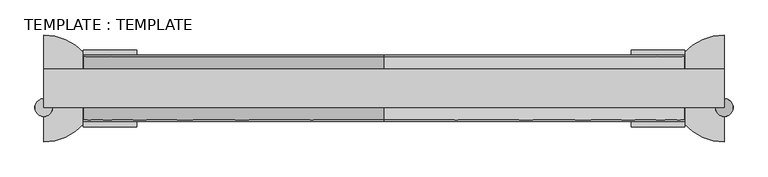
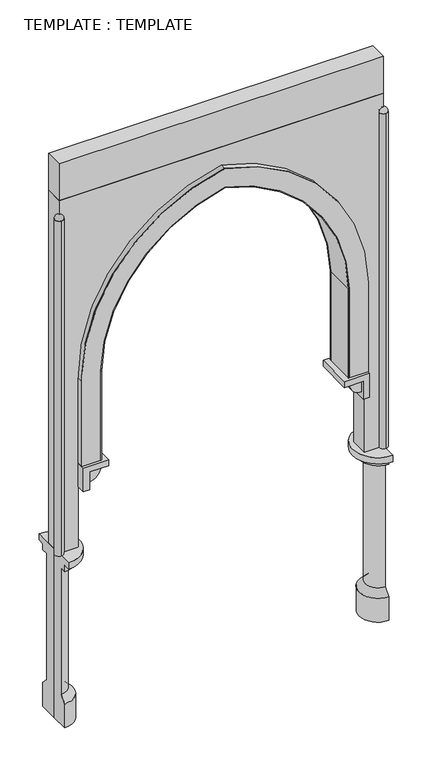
"""IFC4 building model written with IfcOpenShell, lengths in millimetres: plate geometry, TEMPLATE : TEMPLATE."""

from ifc_helpers import new_model, si_unit, point, frame, frame_2d, origin, place, context, project, spatial, polyline, circle_curve, ellipse_curve, trimmed, segment, composite_curve, outline, extrude, source, transform, mapped, element, save
from ifc_brep_helpers import plane_surface, cylinder_surface, revolved_surface, advanced_brep


def template_template_a81cd723(model_context):
    return source(origin(), model_context, "Body", "SolidModel", [
        extrude(outline(polyline([(1250.0, 71.2450521), (1250.0, -71.2450521), (-1250.0, -71.2450521), (-1250.0, 71.2450521), (1250.0, 71.2450521)])), frame((0.0, 0.0, 4250.0), z_axis=(0.0, 0.0, 1.0), x_axis=(1.0, 0.0, 0.0)), (0.0, 0.0, 1.0), 300.0),
        advanced_brep(
        [(-1250.0, -38.7797743, 4103.90625), (-1250.0, -103.7103299, 4103.90625)],
        [
            (0, 1, circle_curve(frame((-1250.0, -71.2450521, 4103.90625), z_axis=(0.0, 0.0, -1.0), x_axis=(-1.0, 0.0, 0.0)), 32.4652778)),
            (1, 0),
            (1, 0, circle_curve(frame((-1250.0, -71.2450521, 4103.90625), z_axis=(0.0, 0.0, -1.0), x_axis=(1.0, 0.0, 0.0)), 32.4652778)),
        ],
        [
            plane_surface(frame((-1250.0, 122.2362565, 4103.90625), z_axis=(0.0, 0.0, -1.0), x_axis=(1.0, 0.0, 0.0))),
            plane_surface(frame((-1250.0, 122.2362565, 4103.90625), z_axis=(0.0, 0.0, -1.0), x_axis=(-1.0, 0.0, 0.0))),
            revolved_surface(trimmed(ellipse_curve(frame((-1250.0, -71.2450521, 4103.90625), z_axis=(0.0, 0.0, -1.0), x_axis=(-1.0, 0.0, 0.0)), 32.4652778, 32.4652778), [point((-1250.0, -38.7797743, 4103.90625))], [point((-1250.0, -103.7103299, 4103.90625))], True, "CARTESIAN"), (-1250.0, 122.2362565, 4103.90625), (0.0, -1.0, 0.0)),
        ],
        [
            (0, [[1, 2]]),
            (1, [[-2, 3]]),
            (2, [[-3, -1]]),
        ],
    ),
        extrude(outline(composite_curve([segment(trimmed(circle_curve(frame_2d((-1250.0, -71.2450521)), 32.4652778), [point((-1250.0, -103.7103299))], [point((-1250.0, -38.7797743))], False, "CARTESIAN"), True, "CONTINUOUS"), segment(trimmed(circle_curve(frame_2d((-1250.0, -71.2450521)), 32.4652778), [point((-1250.0, -38.7797743))], [point((-1250.0, -103.7103299))], False, "CARTESIAN"), True, "CONTINUOUS")], self_intersect=False)), frame((0.0, 0.0, 1375.0), z_axis=(0.0, 0.0, 1.0), x_axis=(1.0, 0.0, 0.0)), (0.0, 0.0, 1.0), 2728.90625),
        advanced_brep(
        [(1250.0, -38.7797743, 4103.90625), (1250.0, -103.7103299, 4103.90625)],
        [
            (0, 1),
            (1, 0, circle_curve(frame((1250.0, -71.2450521, 4103.90625), z_axis=(0.0, 0.0, -1.0), x_axis=(-1.0, 0.0, 0.0)), 32.4652778)),
            (0, 1, circle_curve(frame((1250.0, -71.2450521, 4103.90625), z_axis=(0.0, 0.0, -1.0), x_axis=(1.0, 0.0, 0.0)), 32.4652778)),
        ],
        [
            plane_surface(frame((1250.0, 122.2362565, 4103.90625), z_axis=(0.0, 0.0, -1.0), x_axis=(-1.0, 0.0, 0.0))),
            plane_surface(frame((1250.0, 122.2362565, 4103.90625), z_axis=(0.0, 0.0, -1.0), x_axis=(1.0, 0.0, 0.0))),
            revolved_surface(trimmed(ellipse_curve(frame((1250.0, -71.2450521, 4103.90625), z_axis=(0.0, 0.0, -1.0), x_axis=(-1.0, 0.0, 0.0)), 32.4652778, 32.4652778), [point((1250.0, -103.7103299, 4103.90625))], [point((1250.0, -38.7797743, 4103.90625))], True, "CARTESIAN"), (1250.0, 122.2362565, 4103.90625), (0.0, 1.0, 0.0)),
        ],
        [
            (0, [[1, 2]]),
            (1, [[-1, 3]]),
            (2, [[-3, -2]]),
        ],
    ),
        extrude(outline(composite_curve([segment(trimmed(circle_curve(frame_2d((1250.0, -71.2450521)), 32.4652778), [point((1250.0, -103.7103299))], [point((1250.0, -38.7797743))], False, "CARTESIAN"), True, "CONTINUOUS"), segment(trimmed(circle_curve(frame_2d((1250.0, -71.2450521)), 32.4652778), [point((1250.0, -38.7797743))], [point((1250.0, -103.7103299))], False, "CARTESIAN"), True, "CONTINUOUS")], self_intersect=False)), frame((0.0, 0.0, 1375.0), z_axis=(0.0, 0.0, 1.0), x_axis=(1.0, 0.0, 0.0)), (0.0, 0.0, 1.0), 2728.90625),
        extrude(outline(composite_curve([segment(polyline([(2062.5, -1103.90625), (2062.5, -952.8125), (2789.7201638, -952.8125)]), True, "CONTINUOUS"), segment(trimmed(circle_curve(frame_2d((2770.9553186, 249.8536177)), 1202.8125), [point((2789.7201638, -952.8125))], [point((3947.5313169, 0.0))], True, "CARTESIAN"), True, "CONTINUOUS"), segment(trimmed(circle_curve(frame_2d((2770.9553186, -249.8536177)), 1202.8125), [point((3947.5313169, 0.0))], [point((2789.7201638, 952.8125))], True, "CARTESIAN"), True, "CONTINUOUS"), segment(polyline([(2789.7201638, 952.8125), (2062.5, 952.8125), (2062.5, 1103.90625), (2751.0466695, 1103.90625)]), True, "CONTINUOUS"), segment(trimmed(circle_curve(frame_2d((2770.9553186, -249.8536177)), 1353.90625), [point((2751.0466695, 1103.90625))], [point((4101.6075284, 0.0))], False, "CARTESIAN"), True, "CONTINUOUS"), segment(trimmed(circle_curve(frame_2d((2770.9553186, 249.8536177)), 1353.90625), [point((4101.6075284, 0.0))], [point((2751.0466695, -1103.90625))], False, "CARTESIAN"), True, "CONTINUOUS"), segment(polyline([(2751.0466695, -1103.90625), (2062.5, -1103.90625)]), True, "CONTINUOUS")], self_intersect=False)), frame((0.0, 116.8675781, 0.0), z_axis=(0.0, 1.0, 0.0), x_axis=(0.0, 0.0, 1.0)), (0.0, 0.0, 1.0), 5.0),
        extrude(outline(composite_curve([segment(polyline([(2789.6812853, 952.813106), (2789.7591277, 957.8125)]), True, "CONTINUOUS"), segment(trimmed(circle_curve(frame_2d((2770.9553186, -249.8536177)), 1207.8125), [point((2789.7591277, 957.8125))], [point((3952.642335, 0.0))], False, "CARTESIAN"), True, "CONTINUOUS"), segment(trimmed(circle_curve(frame_2d((2770.9553186, 249.8536177)), 1207.8125), [point((3952.642335, 0.0))], [point((2789.7591277, -957.8125))], False, "CARTESIAN"), True, "CONTINUOUS"), segment(polyline([(2789.7591277, -957.8125), (2789.6812853, -952.813106)]), True, "CONTINUOUS"), segment(trimmed(circle_curve(frame_2d((2770.9553186, 249.8536177)), 1202.8125), [point((2789.6812853, -952.813106))], [point((3947.5313169, 0.0))], True, "CARTESIAN"), True, "CONTINUOUS"), segment(trimmed(circle_curve(frame_2d((2770.9553186, -249.8536177)), 1202.8125), [point((3947.5313169, 0.0))], [point((2789.6812853, 952.813106))], True, "CARTESIAN"), True, "CONTINUOUS")], self_intersect=False)), frame((0.0, -121.8675781, 0.0), z_axis=(0.0, 1.0, 0.0), x_axis=(0.0, 0.0, 1.0)), (0.0, 0.0, 1.0), 238.7351563),
        extrude(outline(polyline([(957.8125, 116.8675781), (957.8125, -121.8675781), (952.8125, -121.8675781), (952.8125, 116.8675781), (957.8125, 116.8675781)])), frame((0.0, 0.0, 2062.5), z_axis=(0.0, 0.0, 1.0), x_axis=(1.0, 0.0, 0.0)), (0.0, 0.0, 1.0), 727.2591277),
        extrude(outline(polyline([(-952.8125, 116.8675781), (-952.8125, -121.8675781), (-957.8125, -121.8675781), (-957.8125, 116.8675781), (-952.8125, 116.8675781)])), frame((0.0, 0.0, 2062.5), z_axis=(0.0, 0.0, 1.0), x_axis=(1.0, 0.0, 0.0)), (0.0, 0.0, 1.0), 727.2591277),
        extrude(outline(composite_curve([segment(polyline([(2013.8020833, 1055.2083333), (2013.8020833, 957.8125)]), True, "CONTINUOUS"), segment(trimmed(circle_curve(frame_2d((2013.8020833, 1055.2083333)), 97.3958333), [point((2013.8020833, 957.8125))], [point((1916.40625, 1055.2083333))], False, "CARTESIAN"), True, "CONTINUOUS"), segment(polyline([(1916.40625, 1055.2083333), (2013.8020833, 1055.2083333)]), True, "CONTINUOUS")], self_intersect=False)), frame((0.0, -121.8675781, 0.0), z_axis=(0.0, 1.0, 0.0), x_axis=(0.0, 0.0, 1.0)), (0.0, 0.0, 1.0), 238.7351562),
        extrude(outline(composite_curve([segment(polyline([(2013.8020833, -1055.2083333), (1916.40625, -1055.2083333)]), True, "CONTINUOUS"), segment(trimmed(circle_curve(frame_2d((2013.8020833, -1055.2083333)), 97.3958333), [point((1916.40625, -1055.2083333))], [point((2013.8020833, -957.8125))], False, "CARTESIAN"), True, "CONTINUOUS"), segment(polyline([(2013.8020833, -957.8125), (2013.8020833, -1055.2083333)]), True, "CONTINUOUS")], self_intersect=False)), frame((0.0, -121.8675781, 0.0), z_axis=(0.0, 1.0, 0.0), x_axis=(0.0, 0.0, 1.0)), (0.0, 0.0, 1.0), 238.7351562),
        advanced_brep(
        [(-1250.0, 196.7395833, 1375.0), (-1250.0, 196.7395833, 1324.3541667), (-1250.0, 146.09375, 1324.3541667), (-1250.0, 146.09375, 1273.7083333), (-1250.0, 97.3958333, 1273.7083333), (-1250.0, 97.3958333, 245.4375), (-1250.0, 146.09375, 194.7916667), (-1250.0, 146.09375, 0.0), (-1250.0, 0.0, 0.0), (-1250.0, 0.0, 1375.0), (-1250.0, -196.7395833, 1375.0), (-1250.0, -146.09375, 0.0), (-1250.0, -146.09375, 194.7916667), (-1250.0, -97.3958333, 245.4375), (-1250.0, -97.3958333, 1273.7083333), (-1250.0, -146.09375, 1273.7083333), (-1250.0, -146.09375, 1324.3541667), (-1250.0, -196.7395833, 1324.3541667)],
        [
            (0, 1),
            (1, 2),
            (2, 3),
            (3, 4),
            (4, 5),
            (5, 6),
            (6, 7),
            (7, 8),
            (8, 9),
            (9, 0),
            (10, 9),
            (8, 11),
            (11, 12),
            (12, 13),
            (13, 14),
            (14, 15),
            (15, 16),
            (16, 17),
            (17, 10),
            (17, 1, circle_curve(frame((-1250.0, 0.0, 1324.3541667), z_axis=(0.0, 0.0, 1.0), x_axis=(0.0, 1.0000000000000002, 0.0)), 196.7395833)),
            (0, 10, circle_curve(frame((-1250.0, 0.0, 1375.0), z_axis=(0.0, 0.0, -1.0), x_axis=(0.0, 1.0000000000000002, 0.0)), 196.7395833)),
            (16, 2, circle_curve(frame((-1250.0, 0.0, 1324.3541667), z_axis=(0.0, 0.0, 1.0), x_axis=(0.0, 1.0000000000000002, 0.0)), 146.09375)),
            (15, 3, circle_curve(frame((-1250.0, 0.0, 1273.7083333), z_axis=(0.0, 0.0, 1.0), x_axis=(0.0, 1.0000000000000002, 0.0)), 146.09375)),
            (14, 4, circle_curve(frame((-1250.0, 0.0, 1273.7083333), z_axis=(0.0, 0.0, 1.0), x_axis=(0.0, 1.0000000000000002, 0.0)), 97.3958333)),
            (13, 5, circle_curve(frame((-1250.0, 0.0, 245.4375), z_axis=(0.0, 0.0, 1.0), x_axis=(0.0, 1.0000000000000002, 0.0)), 97.3958333)),
            (12, 6, circle_curve(frame((-1250.0, 0.0, 194.7916667), z_axis=(0.0, 0.0, 1.0), x_axis=(0.0, 1.0000000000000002, 0.0)), 146.09375)),
            (11, 7, circle_curve(frame((-1250.0, 0.0, 0.0), z_axis=(0.0, 0.0, 1.0), x_axis=(0.0, 1.0000000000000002, 0.0)), 146.09375)),
        ],
        [
            plane_surface(frame((-1250.0, 0.0, -1400.0), z_axis=(-1.0, 0.0, 0.0), x_axis=(0.0, 1.0, 0.0))),
            plane_surface(frame((-1250.0, 0.0, -1400.0), z_axis=(-1.0, 0.0, 0.0), x_axis=(0.0, -1.0, 0.0))),
            cylinder_surface(frame((-1250.0, 0.0, -1400.0), z_axis=(0.0, 0.0, 1.0), x_axis=(0.0, 1.0000000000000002, 0.0)), 196.7395833),
            plane_surface(frame((-1250.0, 0.0, 1324.3541667), z_axis=(0.0, 0.0, -1.0), x_axis=(0.0, 1.0, 0.0))),
            cylinder_surface(frame((-1250.0, 0.0, -1400.0), z_axis=(0.0, 0.0, 1.0), x_axis=(0.0, 1.0000000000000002, 0.0)), 146.09375),
            plane_surface(frame((-1250.0, 0.0, 1273.7083333), z_axis=(0.0, 0.0, -1.0), x_axis=(0.0, 1.0, 0.0))),
            cylinder_surface(frame((-1250.0, 0.0, -1400.0), z_axis=(0.0, 0.0, 1.0), x_axis=(0.0, 1.0000000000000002, 0.0)), 97.3958333),
            revolved_surface(polyline([(-1250.0, 146.09375, 194.7916667), (-1250.0, 97.3958333, 245.4375)]), (-1250.0, 0.0, -1400.0), (0.0, 0.0, 1.0)),
            plane_surface(frame((-1250.0, 0.0, 0.0), z_axis=(0.0, 0.0, -1.0), x_axis=(0.0, 1.0, 0.0))),
            plane_surface(frame((-1250.0, 0.0, 1375.0), z_axis=(0.0, 0.0, 1.0), x_axis=(0.0, 1.0, 0.0))),
        ],
        [
            (0, [[1, 2, 3, 4, 5, 6, 7, 8, 9, 10]]),
            (1, [[11, -9, 12, 13, 14, 15, 16, 17, 18, 19]]),
            (2, [[-19, 20, -1, 21]]),
            (3, [[-18, 22, -2, -20]]),
            (4, [[-17, 23, -3, -22]]),
            (5, [[-16, 24, -4, -23]]),
            (6, [[-15, 25, -5, -24]]),
            (7, [[-14, 26, -6, -25]]),
            (4, [[-13, 27, -7, -26]]),
            (8, [[-12, -8, -27]]),
            (9, [[-11, -21, -10]]),
        ],
    ),
        extrude(outline(polyline([(2062.5, 1103.90625), (2062.5, 909.1145833), (2013.8020833, 909.1145833), (2013.8020833, 1055.2083333), (1867.7083333, 1055.2083333), (1867.7083333, 1103.90625), (2062.5, 1103.90625)])), frame((0.0, -141.2165365, 0.0), z_axis=(0.0, 1.0, 0.0), x_axis=(0.0, 0.0, 1.0)), (0.0, 0.0, 1.0), 282.4330729),
        extrude(outline(polyline([(2062.5, -1103.90625), (1867.7083333, -1103.90625), (1867.7083333, -1055.2083333), (2013.8020833, -1055.2083333), (2013.8020833, -909.1145833), (2062.5, -909.1145833), (2062.5, -1103.90625)])), frame((0.0, -141.2165365, 0.0), z_axis=(0.0, 1.0, 0.0), x_axis=(0.0, 0.0, 1.0)), (0.0, 0.0, 1.0), 282.4330729),
        advanced_brep(
        [(1250.0, 196.7395833, 1375.0), (1250.0, 0.0, 1375.0), (1250.0, 0.0, 0.0), (1250.0, 146.09375, 0.0), (1250.0, 146.09375, 194.7916667), (1250.0, 97.3958333, 245.4375), (1250.0, 97.3958333, 1273.7083333), (1250.0, 146.09375, 1273.7083333), (1250.0, 146.09375, 1324.3541667), (1250.0, 196.7395833, 1324.3541667), (1250.0, -196.7395833, 1375.0), (1250.0, -196.7395833, 1324.3541667), (1250.0, -146.09375, 1324.3541667), (1250.0, -146.09375, 1273.7083333), (1250.0, -97.3958333, 1273.7083333), (1250.0, -97.3958333, 245.4375), (1250.0, -146.09375, 194.7916667), (1250.0, -146.09375, 0.0)],
        [
            (0, 1),
            (1, 2),
            (2, 3),
            (3, 4),
            (4, 5),
            (5, 6),
            (6, 7),
            (7, 8),
            (8, 9),
            (9, 0),
            (10, 11),
            (11, 12),
            (12, 13),
            (13, 14),
            (14, 15),
            (15, 16),
            (16, 17),
            (17, 2),
            (1, 10),
            (10, 0, circle_curve(frame((1250.0, 0.0, 1375.0), z_axis=(0.0, 0.0, -1.0), x_axis=(0.0, 1.0000000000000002, 0.0)), 196.7395833)),
            (9, 11, circle_curve(frame((1250.0, 0.0, 1324.3541667), z_axis=(0.0, 0.0, 1.0), x_axis=(0.0, 1.0000000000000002, 0.0)), 196.7395833)),
            (8, 12, circle_curve(frame((1250.0, 0.0, 1324.3541667), z_axis=(0.0, 0.0, 1.0), x_axis=(0.0, 1.0000000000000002, 0.0)), 146.09375)),
            (7, 13, circle_curve(frame((1250.0, 0.0, 1273.7083333), z_axis=(0.0, 0.0, 1.0), x_axis=(0.0, 1.0000000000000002, 0.0)), 146.09375)),
            (6, 14, circle_curve(frame((1250.0, 0.0, 1273.7083333), z_axis=(0.0, 0.0, 1.0), x_axis=(0.0, 1.0000000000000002, 0.0)), 97.3958333)),
            (5, 15, circle_curve(frame((1250.0, 0.0, 245.4375), z_axis=(0.0, 0.0, 1.0), x_axis=(0.0, 1.0000000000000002, 0.0)), 97.3958333)),
            (4, 16, circle_curve(frame((1250.0, 0.0, 194.7916667), z_axis=(0.0, 0.0, 1.0), x_axis=(0.0, 1.0000000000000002, 0.0)), 146.09375)),
            (3, 17, circle_curve(frame((1250.0, 0.0, 0.0), z_axis=(0.0, 0.0, 1.0), x_axis=(0.0, 1.0000000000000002, 0.0)), 146.09375)),
        ],
        [
            plane_surface(frame((1250.0, 0.0, -1400.0), z_axis=(1.0, 0.0, 0.0), x_axis=(0.0, 1.0, 0.0))),
            plane_surface(frame((1250.0, 0.0, -1400.0), z_axis=(1.0, 0.0, 0.0), x_axis=(0.0, -1.0, 0.0))),
            cylinder_surface(frame((1250.0, 0.0, -1400.0), z_axis=(0.0, 0.0, -1.0), x_axis=(0.0, 1.0000000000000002, 0.0)), 196.7395833),
            plane_surface(frame((1250.0, 0.0, 1324.3541667), z_axis=(0.0, 0.0, -1.0), x_axis=(0.0, 1.0, 0.0))),
            cylinder_surface(frame((1250.0, 0.0, -1400.0), z_axis=(0.0, 0.0, -1.0), x_axis=(0.0, 1.0000000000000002, 0.0)), 146.09375),
            plane_surface(frame((1250.0, 0.0, 1273.7083333), z_axis=(0.0, 0.0, -1.0), x_axis=(0.0, 1.0, 0.0))),
            cylinder_surface(frame((1250.0, 0.0, -1400.0), z_axis=(0.0, 0.0, -1.0), x_axis=(0.0, 1.0000000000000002, 0.0)), 97.3958333),
            revolved_surface(polyline([(1250.0, 97.3958333, 245.4375), (1250.0, 146.09375, 194.7916667)]), (1250.0, 0.0, -1400.0), (0.0, 0.0, -1.0)),
            plane_surface(frame((1250.0, 0.0, 0.0), z_axis=(0.0, 0.0, -1.0), x_axis=(0.0, 1.0, 0.0))),
            plane_surface(frame((1250.0, 0.0, 1375.0), z_axis=(0.0, 0.0, 1.0), x_axis=(0.0, 1.0, 0.0))),
        ],
        [
            (0, [[1, 2, 3, 4, 5, 6, 7, 8, 9, 10]]),
            (1, [[11, 12, 13, 14, 15, 16, 17, 18, -2, 19]]),
            (2, [[-11, 20, -10, 21]]),
            (3, [[-12, -21, -9, 22]]),
            (4, [[-13, -22, -8, 23]]),
            (5, [[-14, -23, -7, 24]]),
            (6, [[-15, -24, -6, 25]]),
            (7, [[-16, -25, -5, 26]]),
            (4, [[-17, -26, -4, 27]]),
            (8, [[-18, -27, -3]]),
            (9, [[-19, -1, -20]]),
        ],
    ),
        extrude(outline(composite_curve([segment(polyline([(1375.0, 1250.0), (4250.0, 1250.0), (4250.0, -1250.0), (1375.0, -1250.0), (1375.0, -1103.90625), (2790.8639676, -1103.90625)]), True, "CONTINUOUS"), segment(trimmed(circle_curve(frame_2d((2770.9553186, 249.8536177)), 1353.90625), [point((2790.8639676, -1103.90625))], [point((4101.6075284, 0.0))], True, "CARTESIAN"), True, "CONTINUOUS"), segment(trimmed(circle_curve(frame_2d((2770.9553186, -249.8536177)), 1353.90625), [point((4101.6075284, 0.0))], [point((2790.8639676, 1103.90625))], True, "CARTESIAN"), True, "CONTINUOUS"), segment(polyline([(2790.8639676, 1103.90625), (1375.0, 1103.90625), (1375.0, 1250.0)]), True, "CONTINUOUS")], self_intersect=False)), frame((0.0, -71.2450521, 0.0), z_axis=(0.0, 1.0, 0.0), x_axis=(0.0, 0.0, 1.0)), (0.0, 0.0, 1.0), 142.4901042),
        extrude(outline(composite_curve([segment(trimmed(circle_curve(frame_2d((2770.9553186, 249.8536177)), 1353.90625), [point((4101.6075284, 0.0))], [point((2790.8639676, -1103.90625))], False, "CARTESIAN"), True, "CONTINUOUS"), segment(polyline([(2790.8639676, -1103.90625), (2062.5, -1103.90625), (2062.5, -957.8125), (2789.7591277, -957.8125)]), True, "CONTINUOUS"), segment(trimmed(circle_curve(frame_2d((2770.9553186, 249.8536177)), 1207.8125), [point((2789.7591277, -957.8125))], [point((3952.642335, 0.0))], True, "CARTESIAN"), True, "CONTINUOUS"), segment(trimmed(circle_curve(frame_2d((2770.9553186, -249.8536177)), 1207.8125), [point((3952.642335, 0.0))], [point((2789.7591277, 957.8125))], True, "CARTESIAN"), True, "CONTINUOUS"), segment(polyline([(2789.7591277, 957.8125), (2062.5, 957.8125), (2062.5, 1103.90625), (2790.8639676, 1103.90625)]), True, "CONTINUOUS"), segment(trimmed(circle_curve(frame_2d((2770.9553186, -249.8536177)), 1353.90625), [point((2790.8639676, 1103.90625))], [point((4101.6075284, 0.0))], False, "CARTESIAN"), True, "CONTINUOUS")], self_intersect=False)), frame((0.0, -121.8675781, 0.0), z_axis=(0.0, 1.0, 0.0), x_axis=(0.0, 0.0, 1.0)), (0.0, 0.0, 1.0), 5.0),
        extrude(outline(polyline([(-957.8125, -116.8675781), (-1103.90625, -116.8675781), (-1103.90625, 116.8675781), (-957.8125, 116.8675781), (-957.8125, -116.8675781)])), frame((0.0, 0.0, 2062.5), z_axis=(0.0, 0.0, 1.0), x_axis=(1.0, 0.0, 0.0)), (0.0, 0.0, 1.0), 687.5),
        extrude(outline(polyline([(957.8125, -116.8675781), (957.8125, 116.8675781), (1103.90625, 116.8675781), (1103.90625, -116.8675781), (957.8125, -116.8675781)])), frame((0.0, 0.0, 2062.5), z_axis=(0.0, 0.0, 1.0), x_axis=(1.0, 0.0, 0.0)), (0.0, 0.0, 1.0), 687.5),
        extrude(outline(composite_curve([segment(polyline([(2752.0409607, -1103.920507), (2754.0819214, -957.841014)]), True, "CONTINUOUS"), segment(trimmed(circle_curve(frame_2d((2770.9553186, 249.8536177)), 1207.8125), [point((2754.0819214, -957.841014))], [point((3952.642335, 0.0))], True, "CARTESIAN"), True, "CONTINUOUS"), segment(trimmed(circle_curve(frame_2d((2770.9553186, -249.8536177)), 1207.8125), [point((3952.642335, 0.0))], [point((2754.0819214, 957.841014))], True, "CARTESIAN"), True, "CONTINUOUS"), segment(polyline([(2754.0819214, 957.841014), (2752.0409607, 1103.920507)]), True, "CONTINUOUS"), segment(trimmed(circle_curve(frame_2d((2770.9553186, -249.8536177)), 1353.90625), [point((2752.0409607, 1103.920507))], [point((4101.6075284, 0.0))], False, "CARTESIAN"), True, "CONTINUOUS"), segment(trimmed(circle_curve(frame_2d((2770.9553186, 249.8536177)), 1353.90625), [point((4101.6075284, 0.0))], [point((2752.0409607, -1103.920507))], False, "CARTESIAN"), True, "CONTINUOUS")], self_intersect=False)), frame((0.0, -116.8675781, 0.0), z_axis=(0.0, 1.0, 0.0), x_axis=(0.0, 0.0, 1.0)), (0.0, 0.0, 1.0), 233.7351562),
    ])


if __name__ == "__main__":
    model = new_model("IFC4")
    model_context = context("Model", 3, world=origin())
    ifc_project = project(units=[si_unit("LENGTHUNIT", "METRE", prefix="MILLI")], contexts=[model_context])
    site = spatial("IfcSite", under=ifc_project)
    building = spatial("IfcBuilding", under=site)
    placement = place(None, origin())
    template_template_shape = template_template_a81cd723(model_context)
    element("IfcPlate", 1, ObjectType="TEMPLATE : TEMPLATE", at=placement, inside=building, context=model_context, shape_type="MappedRepresentation", body=[
        mapped(template_template_shape, transform((0.0, 0.0, 0.0), x_axis=(1.0, 0.0, 0.0), y_axis=(0.0, 1.0, 0.0), z_axis=(0.0, 0.0, 1.0))),
    ])
    save(model, "model.ifc")
